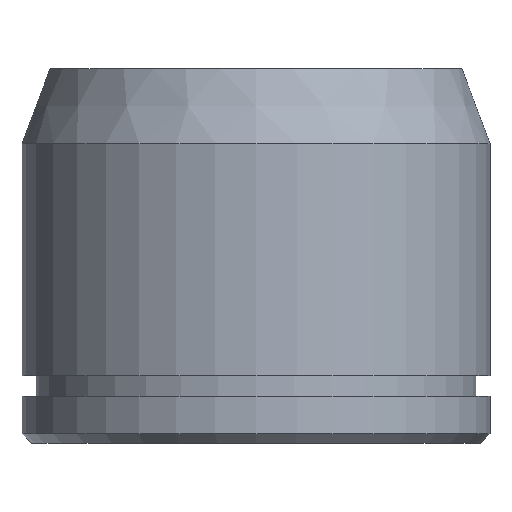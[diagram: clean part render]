
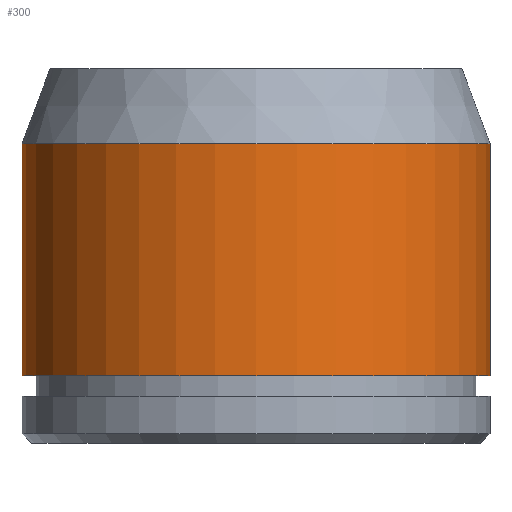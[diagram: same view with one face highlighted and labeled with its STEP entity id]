
A CAD part, front view. The second image highlights one B-rep face of the part: STEP entity #300.
In plain terms, the highlighted cylindrical face has radius 25 mm (diameter 50 mm), a full revolution.
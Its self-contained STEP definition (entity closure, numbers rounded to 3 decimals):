
#259 = EDGE_CURVE('',#260,#260,#262,.T.);
#260 = VERTEX_POINT('',#261);
#261 = CARTESIAN_POINT('',(25.,0.,7.2));
#262 = CIRCLE('',#263,25.);
#263 = AXIS2_PLACEMENT_3D('',#264,#265,#266);
#264 = CARTESIAN_POINT('',(0.,0.,7.2));
#265 = DIRECTION('',(0.,0.,1.));
#266 = DIRECTION('',(1.,0.,-0.));
#300 = ADVANCED_FACE('',(#301),#320,.T.);
#301 = FACE_BOUND('',#302,.T.);
#302 = EDGE_LOOP('',(#303,#304,#312,#319));
#303 = ORIENTED_EDGE('',*,*,#259,.T.);
#304 = ORIENTED_EDGE('',*,*,#305,.T.);
#305 = EDGE_CURVE('',#260,#306,#308,.T.);
#306 = VERTEX_POINT('',#307);
#307 = CARTESIAN_POINT('',(25.,0.,32.));
#308 = LINE('',#309,#310);
#309 = CARTESIAN_POINT('',(25.,0.,0.));
#310 = VECTOR('',#311,1.);
#311 = DIRECTION('',(0.,0.,1.));
#312 = ORIENTED_EDGE('',*,*,#313,.F.);
#313 = EDGE_CURVE('',#306,#306,#314,.T.);
#314 = CIRCLE('',#315,25.);
#315 = AXIS2_PLACEMENT_3D('',#316,#317,#318);
#316 = CARTESIAN_POINT('',(0.,0.,32.));
#317 = DIRECTION('',(0.,0.,1.));
#318 = DIRECTION('',(1.,0.,-0.));
#319 = ORIENTED_EDGE('',*,*,#305,.F.);
#320 = CYLINDRICAL_SURFACE('',#321,25.);
#321 = AXIS2_PLACEMENT_3D('',#322,#323,#324);
#322 = CARTESIAN_POINT('',(0.,0.,0.));
#323 = DIRECTION('',(0.,0.,1.));
#324 = DIRECTION('',(1.,0.,-0.));
